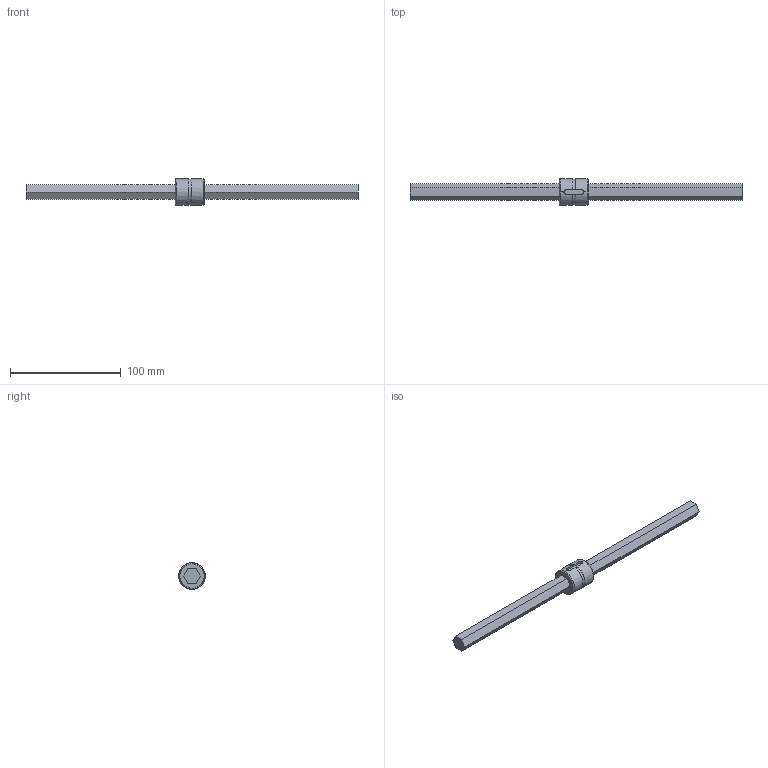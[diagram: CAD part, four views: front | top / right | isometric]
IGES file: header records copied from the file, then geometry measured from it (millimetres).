
Global section: file name: No Iges File Name specified; native system: AutoDesk Inventor R10; preprocessor: AutoDesk Inventor Iges Exporter R10; author: No Author specified; organization: No Organization specified; date: 20101224.163731; units: millimetre
Bounding box: 300 x 24 x 24 mm (x, y, z)
Surface area: 17702.2 mm2 (no closed solid volume)
Topology: 0 solids, 0 shells, 44 faces, 245 edges, 245 vertices
Faces by surface type: plane 19, revolution 15, bspline 10
